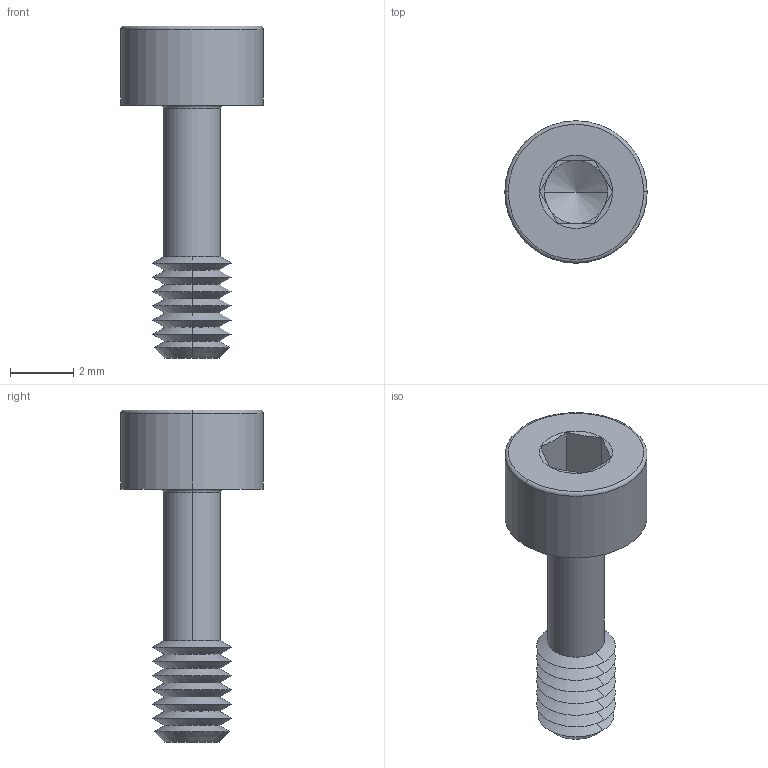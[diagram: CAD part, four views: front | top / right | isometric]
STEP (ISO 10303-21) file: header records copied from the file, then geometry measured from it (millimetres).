
FILE_DESCRIPTION (( 'STEP AP203' ), '1' );
FILE_NAME ('P0154.025-008-BL.step', '2024-06-17T11:21:16', ( '' ), ( '' ), 'SwSTEP 2.0', 'SolidWorks 2019', '' );
FILE_SCHEMA (( 'CONFIG_CONTROL_DESIGN' ));
Length unit declared in the file: millimetre
Products named in the file (1): P0154.025-008-BL
Bounding box: 4.5 x 4.5 x 10.5 mm (x, y, z)
Volume: 55.7 mm3; surface area: 148.5 mm2
Topology: 1 solids, 1 shells, 59 faces, 120 edges, 63 vertices
Faces by surface type: cone 36, plane 15, torus 4, cylinder 4
Entity records: 1587 total; most frequent: DIRECTION 292, CARTESIAN_POINT 267, ORIENTED_EDGE 236, AXIS2_PLACEMENT_3D 120, EDGE_CURVE 118, VERTEX_POINT 63, EDGE_LOOP 61, CIRCLE 60
